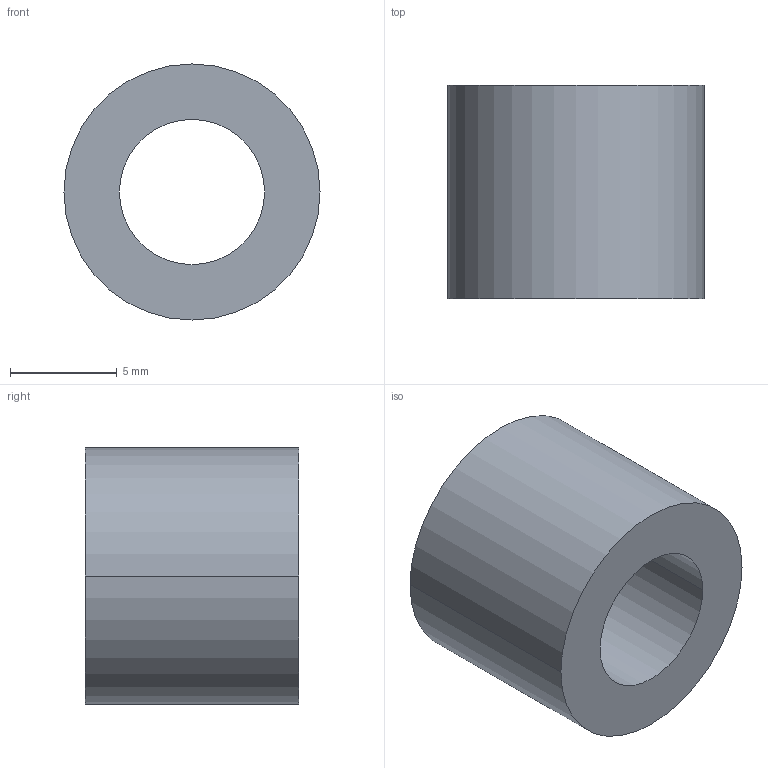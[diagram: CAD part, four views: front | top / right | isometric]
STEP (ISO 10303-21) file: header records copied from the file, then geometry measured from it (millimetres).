
FILE_DESCRIPTION (( 'STEP AP203' ), '1' );
FILE_NAME ('30800.WPP12D6.8.step', '2019-01-23T22:26:15', ( '' ), ( '' ), 'SwSTEP 2.0', 'SolidWorks 2017', '' );
FILE_SCHEMA (( 'CONFIG_CONTROL_DESIGN' ));
Length unit declared in the file: millimetre
Products named in the file (1): 30800.WPP12D6.8
Bounding box: 12 x 10 x 12 mm (x, y, z)
Volume: 756.5 mm3; surface area: 731.4 mm2
Topology: 1 solids, 1 shells, 8 faces, 16 edges, 10 vertices
Faces by surface type: cylinder 4, torus 2, plane 2
Entity records: 297 total; most frequent: DIRECTION 46, CARTESIAN_POINT 35, ORIENTED_EDGE 32, AXIS2_PLACEMENT_3D 21, EDGE_CURVE 16, CIRCLE 12, EDGE_LOOP 10, VERTEX_POINT 10
